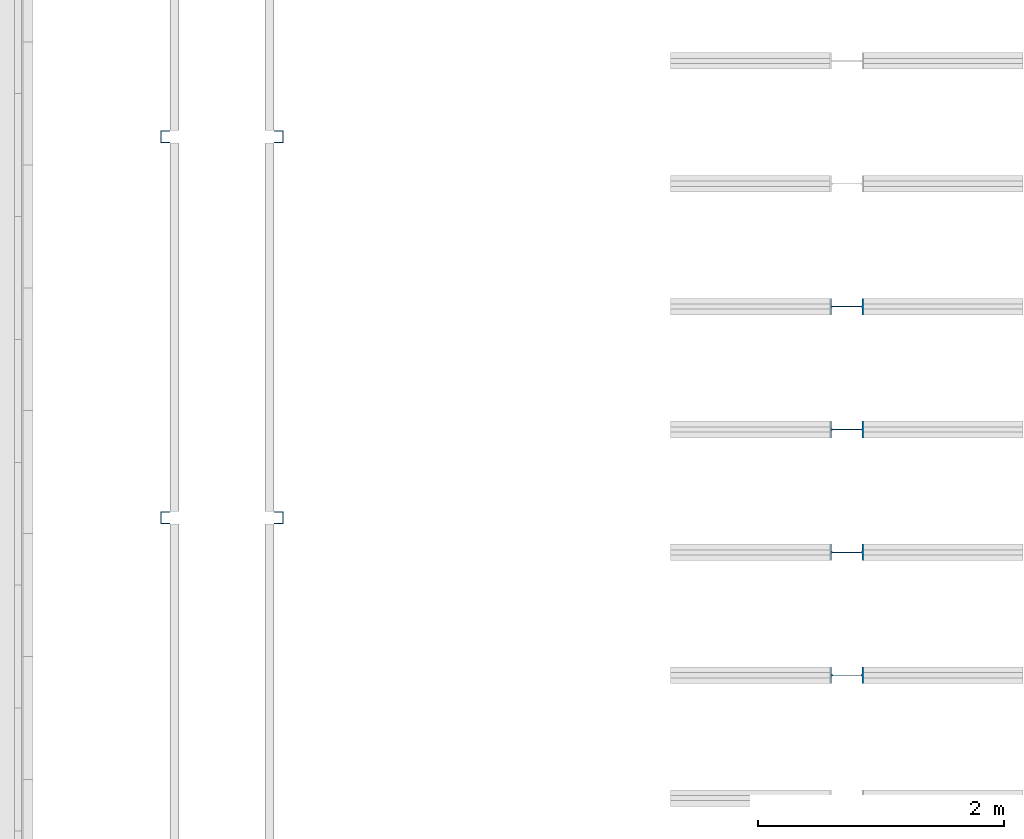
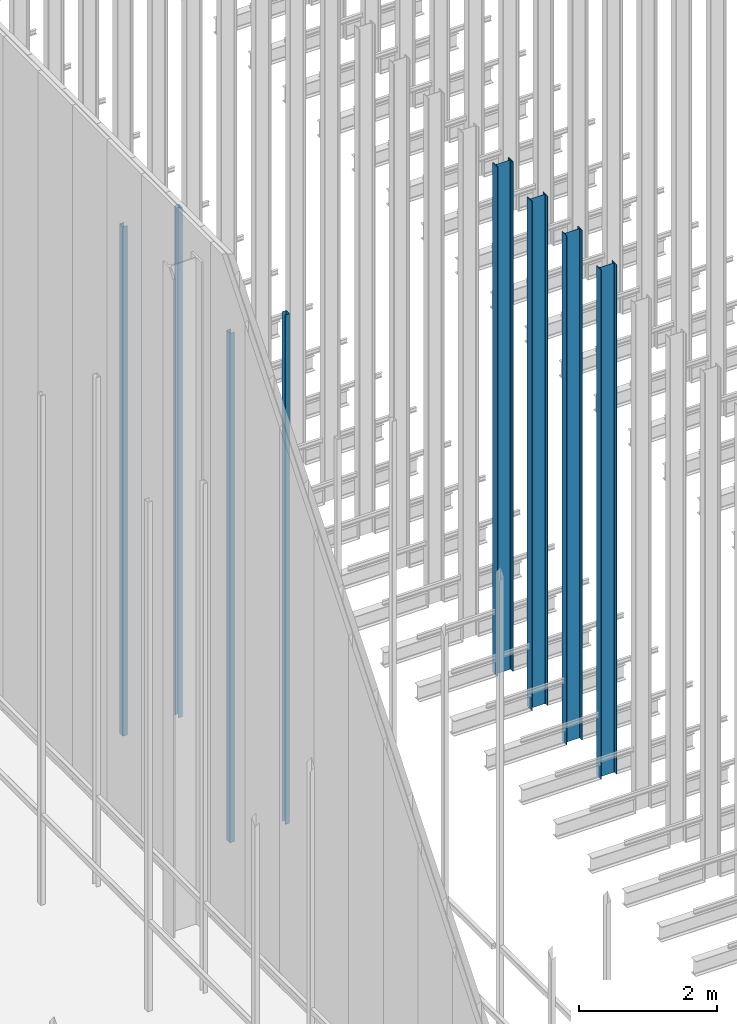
# One storey, part 49 of 302: 8 columns.
"""IFC2X3 building model written with IfcOpenShell, lengths in metres."""

from ifc_helpers import new_model, entity, si_unit, converted_unit, derived_unit, direction, frame, frame_2d, origin, place, context, subcontext, project, spatial, polyline, circle_curve, parameter, trimmed, segment, composite_curve, outline, extrude, source, transform, mapped, material, type_object, type_shapes, element, save


model = new_model("IFC2X3")

# Units and contexts
model_context = context("Model", 3, precision=1e-05, world=origin(), true_north=direction((6.12303176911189e-17, 1.0)))
body_context = subcontext(model_context, "Body", "Model", "MODEL_VIEW")
ifc_project = project(units=[si_unit("LENGTHUNIT", "METRE"), si_unit("AREAUNIT", "SQUARE_METRE"), si_unit("VOLUMEUNIT", "CUBIC_METRE"), converted_unit("PLANEANGLEUNIT", "DEGREE", entity("IfcRatioMeasure", 0.0174532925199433), si_unit("PLANEANGLEUNIT", "RADIAN"), dimensions=[0, 0, 0, 0, 0, 0, 0]), si_unit("MASSUNIT", "GRAM", prefix="KILO"), derived_unit("MASSDENSITYUNIT", [(si_unit("MASSUNIT", "GRAM", prefix="KILO"), 1), (si_unit("LENGTHUNIT", "METRE"), -3)]), derived_unit("MOMENTOFINERTIAUNIT", [(si_unit("LENGTHUNIT", "METRE"), 4)]), si_unit("TIMEUNIT", "SECOND"), si_unit("FREQUENCYUNIT", "HERTZ"), si_unit("THERMODYNAMICTEMPERATUREUNIT", "DEGREE_CELSIUS"), derived_unit("THERMALTRANSMITTANCEUNIT", [(si_unit("MASSUNIT", "GRAM", prefix="KILO"), 1), (si_unit("THERMODYNAMICTEMPERATUREUNIT", "KELVIN"), -1), (si_unit("TIMEUNIT", "SECOND"), -3)]), derived_unit("VOLUMETRICFLOWRATEUNIT", [(si_unit("LENGTHUNIT", "METRE"), 3), (si_unit("TIMEUNIT", "SECOND"), -1)]), si_unit("ELECTRICCURRENTUNIT", "AMPERE"), si_unit("ELECTRICVOLTAGEUNIT", "VOLT"), si_unit("POWERUNIT", "WATT"), si_unit("FORCEUNIT", "NEWTON", prefix="KILO"), si_unit("ILLUMINANCEUNIT", "LUX"), si_unit("LUMINOUSFLUXUNIT", "LUMEN"), si_unit("LUMINOUSINTENSITYUNIT", "CANDELA"), derived_unit("USERDEFINED", [(si_unit("MASSUNIT", "GRAM", prefix="KILO"), -1), (si_unit("LENGTHUNIT", "METRE"), -2), (si_unit("TIMEUNIT", "SECOND"), 3), (si_unit("LUMINOUSFLUXUNIT", "LUMEN"), 1)]), derived_unit("LINEARVELOCITYUNIT", [(si_unit("LENGTHUNIT", "METRE"), 1), (si_unit("TIMEUNIT", "SECOND"), -1)]), si_unit("PRESSUREUNIT", "PASCAL"), derived_unit("USERDEFINED", [(si_unit("LENGTHUNIT", "METRE"), -2), (si_unit("MASSUNIT", "GRAM", prefix="KILO"), 1), (si_unit("TIMEUNIT", "SECOND"), -2)]), derived_unit("LINEARFORCEUNIT", [(si_unit("MASSUNIT", "GRAM", prefix="KILO"), 1), (si_unit("LENGTHUNIT", "METRE"), 1), (si_unit("TIMEUNIT", "SECOND"), -2), (si_unit("LENGTHUNIT", "METRE"), -1)]), derived_unit("PLANARFORCEUNIT", [(si_unit("MASSUNIT", "GRAM", prefix="KILO"), 1), (si_unit("LENGTHUNIT", "METRE"), 1), (si_unit("TIMEUNIT", "SECOND"), -2), (si_unit("LENGTHUNIT", "METRE"), -2)])], contexts=[model_context])

# Site, building, storey
site_placement = place(None, origin())
site = spatial("IfcSite", under=ifc_project, at=site_placement, Name="Default", CompositionType="ELEMENT")
building_placement = place(site_placement, origin())
building = spatial("IfcBuilding", under=site, at=building_placement, CompositionType="ELEMENT")
storey_placement = place(building_placement, frame((0.0, 0.0, -1.3)))
storey = spatial("IfcBuildingStorey", under=building, at=storey_placement, Name="00_EG", CompositionType="ELEMENT", Elevation=-1.3)

# Columns
ifc_material = material(Name="Metall - Baustahl S235")
column_type_1 = type_object("IfcColumnType", Name="Leichter Stahl Schlossschrauben Stütze:C 100", PredefinedType="COLUMN", material=ifc_material)
shared_shape_1 = source(origin(), body_context, "Body", "SweptSolid", [
    extrude(outline(composite_curve([segment(polyline([(-0.0469749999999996, -0.0499999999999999), (0.0214500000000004, -0.0499999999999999)]), True, "CONTINUOUS"), segment(trimmed(circle_curve(frame_2d((0.0214500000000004, -0.0434249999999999), x_axis=(0.0, -1.0)), 0.00657500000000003), [parameter(0.0)], [parameter(89.9999999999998)], True, "PARAMETER"), True, "CONTINUOUS"), segment(polyline([(0.0280250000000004, -0.0434249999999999), (0.0280250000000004, 0.0434250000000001)]), True, "CONTINUOUS"), segment(trimmed(circle_curve(frame_2d((0.0214500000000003, 0.0434250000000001), x_axis=(1.0, 0.0)), 0.0065750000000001), [parameter(0.0)], [parameter(89.9999999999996)], True, "PARAMETER"), True, "CONTINUOUS"), segment(polyline([(0.0214500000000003, 0.0500000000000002), (-0.0469750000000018, 0.0500000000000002)]), True, "CONTINUOUS"), segment(polyline([(-0.0469750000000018, 0.0500000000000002), (-0.0469750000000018, 0.0450000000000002)]), True, "CONTINUOUS"), segment(polyline([(-0.0469750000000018, 0.0450000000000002), (0.0214500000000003, 0.0450000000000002)]), True, "CONTINUOUS"), segment(trimmed(circle_curve(frame_2d((0.0214500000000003, 0.0434249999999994), x_axis=(0.0, 1.0)), 0.00157500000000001), [parameter(269.999999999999)], [parameter(0.0)], True, "PARAMETER"), False, "CONTINUOUS"), segment(polyline([(0.0230250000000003, 0.0434249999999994), (0.0230250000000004, -0.0434249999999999)]), True, "CONTINUOUS"), segment(trimmed(circle_curve(frame_2d((0.0214500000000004, -0.0434249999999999), x_axis=(1.0, 0.0)), 0.00157500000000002), [parameter(270.0)], [parameter(0.0)], True, "PARAMETER"), False, "CONTINUOUS"), segment(polyline([(0.0214500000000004, -0.0449999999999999), (-0.0469749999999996, -0.0449999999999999)]), True, "CONTINUOUS"), segment(polyline([(-0.0469749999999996, -0.0449999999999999), (-0.0469749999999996, -0.0499999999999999)]), True, "CONTINUOUS")], self_intersect=False)), frame((0.0499999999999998, 0.0280250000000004, -0.0300000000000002), z_axis=(0.0, 0.0, 1.0), x_axis=(0.0, -1.0, 0.0)), (0.0, 0.0, 1.0), 9.0),
])
type_shapes(column_type_1, [shared_shape_1])
for number, where, z_axis, x_axis in (
    (1, (-176.230111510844, 33.348088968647, 1.3), (0.0, 0.0, 1.0), (0.0, -1.0, 0.0)),
    (2, (-176.230111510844, 36.448088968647, 1.3), (0.0, 0.0, 1.0), (0.0, -1.0, 0.0)),
):
    element("IfcColumn", number, at=place(storey_placement, frame(where, z_axis=z_axis, x_axis=x_axis)), inside=storey, type_object=column_type_1, material=ifc_material, Name="Leichter Stahl Schlossschrauben Stütze:C 100", ObjectType="Leichter Stahl Schlossschrauben Stütze:C 100", context=body_context, shape_type="MappedRepresentation", body=[
        mapped(shared_shape_1, transform((0.0, 0.0, 0.0), scale=1.0)),
    ])
column_type_2 = type_object("IfcColumnType", Name="Leichter Stahl Schlossschrauben Stütze:C 100", PredefinedType="COLUMN", material=ifc_material)
shared_shape_2 = source(origin(), body_context, "Body", "SweptSolid", [
    extrude(outline(composite_curve([segment(polyline([(-0.0214500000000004, -0.0499999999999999), (0.0469749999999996, -0.0499999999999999)]), True, "CONTINUOUS"), segment(polyline([(0.0469749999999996, -0.0499999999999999), (0.0469749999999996, -0.0449999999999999)]), True, "CONTINUOUS"), segment(polyline([(0.0469749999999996, -0.0449999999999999), (-0.0214500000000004, -0.045)]), True, "CONTINUOUS"), segment(trimmed(circle_curve(frame_2d((-0.0214500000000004, -0.043425), x_axis=(0.0, -1.0)), 0.00157500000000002), [parameter(270.0)], [parameter(0.0)], True, "PARAMETER"), False, "CONTINUOUS"), segment(polyline([(-0.0230250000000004, -0.0434249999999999), (-0.0230250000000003, 0.0434249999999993)]), True, "CONTINUOUS"), segment(trimmed(circle_curve(frame_2d((-0.0214500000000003, 0.0434249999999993), x_axis=(-1.0, 0.0)), 0.00157500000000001), [parameter(269.999999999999)], [parameter(0.0)], True, "PARAMETER"), False, "CONTINUOUS"), segment(polyline([(-0.0214500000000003, 0.0450000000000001), (0.0469750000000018, 0.0450000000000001)]), True, "CONTINUOUS"), segment(polyline([(0.0469750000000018, 0.0450000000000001), (0.0469750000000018, 0.0500000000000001)]), True, "CONTINUOUS"), segment(polyline([(0.0469750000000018, 0.0500000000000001), (-0.0214500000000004, 0.0500000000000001)]), True, "CONTINUOUS"), segment(trimmed(circle_curve(frame_2d((-0.0214500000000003, 0.043425), x_axis=(0.0, 1.0)), 0.0065750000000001), [parameter(0.0)], [parameter(89.9999999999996)], True, "PARAMETER"), True, "CONTINUOUS"), segment(polyline([(-0.0280250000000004, 0.043425), (-0.0280250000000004, -0.043425)]), True, "CONTINUOUS"), segment(trimmed(circle_curve(frame_2d((-0.0214500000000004, -0.0434249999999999), x_axis=(-1.0, 0.0)), 0.00657500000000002), [parameter(0.0)], [parameter(89.9999999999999)], True, "PARAMETER"), True, "CONTINUOUS")], self_intersect=False)), frame((0.0499999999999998, -0.0280250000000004, -0.0300000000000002), z_axis=(0.0, 0.0, 1.0), x_axis=(0.0, -1.0, 0.0)), (0.0, 0.0, 1.0), 9.0),
])
type_shapes(column_type_2, [shared_shape_2])
for number, where, z_axis, x_axis in (
    (3, (-175.230111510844, 33.348088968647, 1.3), (0.0, 0.0, 1.0), (0.0, -1.0, 0.0)),
    (4, (-175.230111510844, 36.448088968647, 1.3), (0.0, 0.0, 1.0), (0.0, -1.0, 0.0)),
):
    element("IfcColumn", number, at=place(storey_placement, frame(where, z_axis=z_axis, x_axis=x_axis)), inside=storey, type_object=column_type_2, material=ifc_material, Name="Leichter Stahl Schlossschrauben Stütze:C 100", ObjectType="Leichter Stahl Schlossschrauben Stütze:C 100", context=body_context, shape_type="MappedRepresentation", body=[
        mapped(shared_shape_2, transform((0.0, 0.0, 0.0), scale=1.0)),
    ])
column_type_3 = type_object("IfcColumnType", Name="IPE Stütze:IPE 270", PredefinedType="COLUMN", material=ifc_material)
shared_shape_3 = source(origin(), body_context, "Body", "SweptSolid", [
    extrude(outline(composite_curve([segment(polyline([(0.1248, -0.0675), (0.135, -0.0675)]), True, "CONTINUOUS"), segment(polyline([(0.135, -0.0675), (0.135, 0.0675)]), True, "CONTINUOUS"), segment(polyline([(0.135, 0.0675), (0.1248, 0.0675)]), True, "CONTINUOUS"), segment(polyline([(0.1248, 0.0675), (0.1248, 0.0183)]), True, "CONTINUOUS"), segment(trimmed(circle_curve(frame_2d((0.1098, 0.0183), x_axis=(1.0, 0.0)), 0.015), [parameter(270.0)], [parameter(0.0)], True, "PARAMETER"), False, "CONTINUOUS"), segment(polyline([(0.1098, 0.0033), (-0.1098, 0.0033)]), True, "CONTINUOUS"), segment(trimmed(circle_curve(frame_2d((-0.1098, 0.0183), x_axis=(0.0, -1.0)), 0.015), [parameter(270.0)], [parameter(0.0)], True, "PARAMETER"), False, "CONTINUOUS"), segment(polyline([(-0.1248, 0.0183), (-0.1248, 0.0675)]), True, "CONTINUOUS"), segment(polyline([(-0.1248, 0.0675), (-0.135, 0.0675)]), True, "CONTINUOUS"), segment(polyline([(-0.135, 0.0675), (-0.135, -0.0675)]), True, "CONTINUOUS"), segment(polyline([(-0.135, -0.0675), (-0.1248, -0.0675)]), True, "CONTINUOUS"), segment(polyline([(-0.1248, -0.0675), (-0.1248, -0.0183)]), True, "CONTINUOUS"), segment(trimmed(circle_curve(frame_2d((-0.1098, -0.0183), x_axis=(-1.0, 0.0)), 0.015), [parameter(269.999999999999)], [parameter(0.0)], True, "PARAMETER"), False, "CONTINUOUS"), segment(polyline([(-0.1098, -0.0033), (0.1098, -0.0033)]), True, "CONTINUOUS"), segment(trimmed(circle_curve(frame_2d((0.1098, -0.0183), x_axis=(0.0, 1.0)), 0.015), [parameter(270.0)], [parameter(0.0)], True, "PARAMETER"), False, "CONTINUOUS"), segment(polyline([(0.1248, -0.0183), (0.1248, -0.0675)]), True, "CONTINUOUS")], self_intersect=False)), frame((0.0, 0.0, -0.0300000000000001), z_axis=(0.0, 0.0, 1.0), x_axis=(0.0, -1.0, 0.0)), (0.0, 0.0, 1.0), 9.0),
])
type_shapes(column_type_3, [shared_shape_3])
for number, where, z_axis, x_axis in (
    (5, (-170.645111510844, 35.015588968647, 1.3), (0.0, 0.0, 1.0), (0.0, 1.0, 0.0)),
    (6, (-170.645111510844, 34.015588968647, 1.3), (0.0, 0.0, 1.0), (0.0, 1.0, 0.0)),
    (7, (-170.645111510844, 33.015588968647, 1.3), (0.0, 0.0, 1.0), (0.0, 1.0, 0.0)),
    (8, (-170.645111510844, 32.015588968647, 1.3), (0.0, 0.0, 1.0), (0.0, 1.0, 0.0)),
):
    element("IfcColumn", number, at=place(storey_placement, frame(where, z_axis=z_axis, x_axis=x_axis)), inside=storey, type_object=column_type_3, material=ifc_material, Name="IPE Stütze:IPE 270", ObjectType="IPE Stütze:IPE 270", context=body_context, shape_type="MappedRepresentation", body=[
        mapped(shared_shape_3, transform((0.0, 0.0, 0.0), scale=1.0)),
    ])

save(model, "model.ifc")
